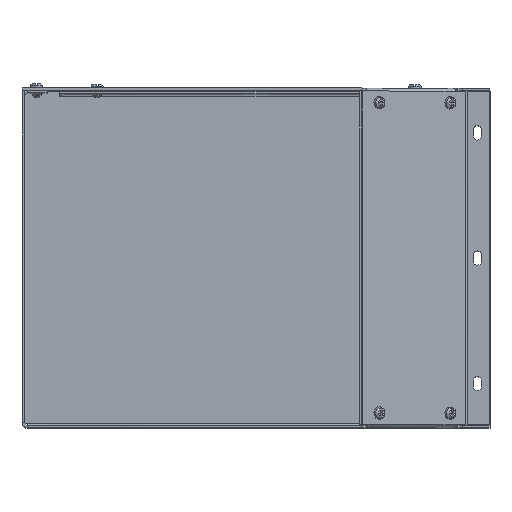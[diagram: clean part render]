
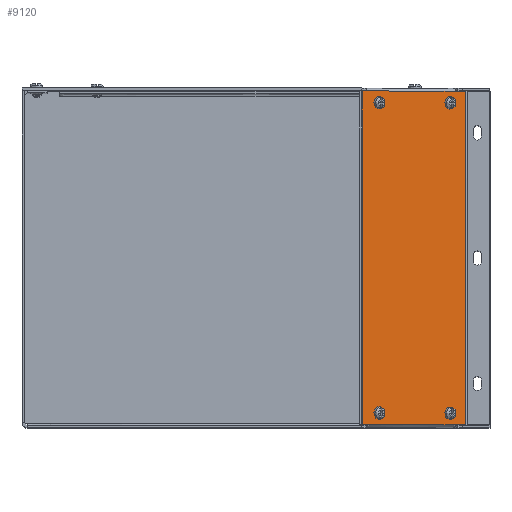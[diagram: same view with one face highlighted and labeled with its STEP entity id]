
A CAD part, top view. The second image highlights one B-rep face of the part: STEP entity #9120.
In plain terms, the highlighted free-form (B-spline) face has degree [1, 1] with [2, 2] control points.
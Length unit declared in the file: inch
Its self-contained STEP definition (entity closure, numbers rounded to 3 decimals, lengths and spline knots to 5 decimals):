
#8033=CARTESIAN_POINT('V1',(2.78096,9.636,
   -3.42914));
#8034=VERTEX_POINT('V1',#8033);
#8035=CARTESIAN_POINT('E1',(2.78096,9.636,
   -3.42914));
#8036=CARTESIAN_POINT('E1',(2.78096,9.85251,
   -3.42914));
#8037=CARTESIAN_POINT('E1',(2.64838,9.74425,
   -3.29655));
#8038=CARTESIAN_POINT('E1',(2.5158,9.636,
   -3.16397));
#8039=CARTESIAN_POINT('E1',(2.64838,9.52775,
   -3.29655));
#8040=CARTESIAN_POINT('E1',(2.78096,9.41949,
   -3.42914));
#8041=CARTESIAN_POINT('E1',(2.78096,9.636,
   -3.42914));
#8049=(BOUNDED_CURVE()B_SPLINE_CURVE(2,(#8035,#8036,#8037,#8038,
   #8039,#8040,#8041),.CIRCULAR_ARC.,.T.,.U.)
   B_SPLINE_CURVE_WITH_KNOTS((3,2,2,3),(0.0,0.33333,
   0.66667,1.0),.UNSPECIFIED.)CURVE()
   GEOMETRIC_REPRESENTATION_ITEM()RATIONAL_B_SPLINE_CURVE((1.0,
   0.5,1.0,0.5,1.0,0.5,1.0)
   )REPRESENTATION_ITEM('E1'));
#8050=EDGE_CURVE('E1',#8034,#8034,#8049,.T.);
#8102=CARTESIAN_POINT('V2',(2.78096,0.35,
   -3.42914));
#8103=VERTEX_POINT('V2',#8102);
#8104=CARTESIAN_POINT('E2',(2.78096,0.35,
   -3.42914));
#8105=CARTESIAN_POINT('E2',(2.78096,0.56651,
   -3.42914));
#8106=CARTESIAN_POINT('E2',(2.64838,0.45825,
   -3.29655));
#8107=CARTESIAN_POINT('E2',(2.5158,0.35,
   -3.16397));
#8108=CARTESIAN_POINT('E2',(2.64838,0.24175,
   -3.29655));
#8109=CARTESIAN_POINT('E2',(2.78096,0.13349,
   -3.42914));
#8110=CARTESIAN_POINT('E2',(2.78096,0.35,
   -3.42914));
#8118=(BOUNDED_CURVE()B_SPLINE_CURVE(2,(#8104,#8105,#8106,#8107,
   #8108,#8109,#8110),.CIRCULAR_ARC.,.T.,.U.)
   B_SPLINE_CURVE_WITH_KNOTS((3,2,2,3),(0.0,0.33333,
   0.66667,1.0),.UNSPECIFIED.)CURVE()
   GEOMETRIC_REPRESENTATION_ITEM()RATIONAL_B_SPLINE_CURVE((1.0,
   0.5,1.0,0.5,1.0,0.5,1.0)
   )REPRESENTATION_ITEM('E2'));
#8119=EDGE_CURVE('E2',#8103,#8103,#8118,.T.);
#8171=CARTESIAN_POINT('V3',(0.65964,0.35,
   -1.30782));
#8172=VERTEX_POINT('V3',#8171);
#8173=CARTESIAN_POINT('E3',(0.65964,0.35,
   -1.30782));
#8174=CARTESIAN_POINT('E3',(0.65964,0.56651,
   -1.30782));
#8175=CARTESIAN_POINT('E3',(0.52706,0.45825,
   -1.17523));
#8176=CARTESIAN_POINT('E3',(0.39447,0.35,
   -1.04265));
#8177=CARTESIAN_POINT('E3',(0.52706,0.24175,
   -1.17523));
#8178=CARTESIAN_POINT('E3',(0.65964,0.13349,
   -1.30782));
#8179=CARTESIAN_POINT('E3',(0.65964,0.35,
   -1.30782));
#8187=(BOUNDED_CURVE()B_SPLINE_CURVE(2,(#8173,#8174,#8175,#8176,
   #8177,#8178,#8179),.CIRCULAR_ARC.,.T.,.U.)
   B_SPLINE_CURVE_WITH_KNOTS((3,2,2,3),(0.0,0.33333,
   0.66667,1.0),.UNSPECIFIED.)CURVE()
   GEOMETRIC_REPRESENTATION_ITEM()RATIONAL_B_SPLINE_CURVE((1.0,
   0.5,1.0,0.5,1.0,0.5,1.0)
   )REPRESENTATION_ITEM('E3'));
#8188=EDGE_CURVE('E3',#8172,#8172,#8187,.T.);
#8240=CARTESIAN_POINT('V4',(0.65964,9.636,
   -1.30782));
#8241=VERTEX_POINT('V4',#8240);
#8242=CARTESIAN_POINT('E4',(0.65964,9.636,
   -1.30782));
#8243=CARTESIAN_POINT('E4',(0.65964,9.85251,
   -1.30782));
#8244=CARTESIAN_POINT('E4',(0.52706,9.74425,
   -1.17523));
#8245=CARTESIAN_POINT('E4',(0.39447,9.636,
   -1.04265));
#8246=CARTESIAN_POINT('E4',(0.52706,9.52775,
   -1.17523));
#8247=CARTESIAN_POINT('E4',(0.65964,9.41949,
   -1.30782));
#8248=CARTESIAN_POINT('E4',(0.65964,9.636,
   -1.30782));
#8256=(BOUNDED_CURVE()B_SPLINE_CURVE(2,(#8242,#8243,#8244,#8245,
   #8246,#8247,#8248),.CIRCULAR_ARC.,.T.,.U.)
   B_SPLINE_CURVE_WITH_KNOTS((3,2,2,3),(0.0,0.33333,
   0.66667,1.0),.UNSPECIFIED.)CURVE()
   GEOMETRIC_REPRESENTATION_ITEM()RATIONAL_B_SPLINE_CURVE((1.0,
   0.5,1.0,0.5,1.0,0.5,1.0)
   )REPRESENTATION_ITEM('E4'));
#8257=EDGE_CURVE('E4',#8241,#8241,#8256,.T.);
#8986=CARTESIAN_POINT('V8',(0.09543,9.986,
   -0.74361));
#8987=VERTEX_POINT('V8',#8986);
#9030=CARTESIAN_POINT('V7',(3.16839,9.986,
   -3.81657));
#9031=VERTEX_POINT('V7',#9030);
#9032=CARTESIAN_POINT('E7',(0.09543,9.986,
   -0.74361));
#9033=CARTESIAN_POINT('E7',(3.16839,9.986,
   -3.81657));
#9034=QUASI_UNIFORM_CURVE('E7',1,(#9032,#9033),.POLYLINE_FORM.,.F.,
   .U.);
#9035=EDGE_CURVE('E7',#8987,#9031,#9034,.T.);
#9058=CARTESIAN_POINT('V6',(3.16839,0.0,-3.81657)
   );
#9059=VERTEX_POINT('V6',#9058);
#9060=CARTESIAN_POINT('V5',(0.09543,0.0,-0.74361)
   );
#9061=VERTEX_POINT('V5',#9060);
#9062=CARTESIAN_POINT('E5',(3.16839,0.0,-3.81657)
   );
#9063=CARTESIAN_POINT('E5',(0.09543,0.0,-0.74361)
   );
#9064=QUASI_UNIFORM_CURVE('E5',1,(#9062,#9063),.POLYLINE_FORM.,.F.,
   .U.);
#9065=EDGE_CURVE('E5',#9059,#9061,#9064,.T.);
#9089=CARTESIAN_POINT('F2',(0.0946,9.98718,
   -0.74277));
#9090=CARTESIAN_POINT('F2',(3.16923,9.98718,
   -3.8174));
#9091=CARTESIAN_POINT('F2',(0.0946,-0.00118,
   -0.74277));
#9092=CARTESIAN_POINT('F2',(3.16923,-0.00118,
   -3.8174));
#9093=B_SPLINE_SURFACE_WITH_KNOTS('F2',1,1,((#9089,#9091),(#9090,
   #9092)),.PLANE_SURF.,.F.,.F.,.U.,(2,2),(2,2),(0.0,1.0),(0.0,
   2.29713),.UNSPECIFIED.);
#9094=CARTESIAN_POINT('E6',(3.16839,9.986,
   -3.81657));
#9095=CARTESIAN_POINT('E6',(3.16839,0.0,-3.81657)
   );
#9096=QUASI_UNIFORM_CURVE('E6',1,(#9094,#9095),.POLYLINE_FORM.,.F.,
   .U.);
#9097=EDGE_CURVE('E6',#9031,#9059,#9096,.T.);
#9098=ORIENTED_EDGE('E6',*,*,#9097,.F.);
#9099=ORIENTED_EDGE('E7',*,*,#9035,.F.);
#9100=CARTESIAN_POINT('E8',(0.09543,0.0,-0.74361)
   );
#9101=CARTESIAN_POINT('E8',(0.09543,9.986,
   -0.74361));
#9102=QUASI_UNIFORM_CURVE('E8',1,(#9100,#9101),.POLYLINE_FORM.,.F.,
   .U.);
#9103=EDGE_CURVE('E8',#9061,#8987,#9102,.T.);
#9104=ORIENTED_EDGE('E8',*,*,#9103,.F.);
#9105=ORIENTED_EDGE('E5',*,*,#9065,.F.);
#9106=EDGE_LOOP('F2',(#9098,#9099,#9104,#9105));
#9107=FACE_OUTER_BOUND('F2',#9106,.T.);
#9108=ORIENTED_EDGE('E4',*,*,#8257,.F.);
#9109=EDGE_LOOP('F2',(#9108));
#9110=FACE_BOUND('F2',#9109,.T.);
#9111=ORIENTED_EDGE('E3',*,*,#8188,.F.);
#9112=EDGE_LOOP('F2',(#9111));
#9113=FACE_BOUND('F2',#9112,.T.);
#9114=ORIENTED_EDGE('E2',*,*,#8119,.F.);
#9115=EDGE_LOOP('F2',(#9114));
#9116=FACE_BOUND('F2',#9115,.T.);
#9117=ORIENTED_EDGE('E1',*,*,#8050,.F.);
#9118=EDGE_LOOP('F2',(#9117));
#9119=FACE_BOUND('F2',#9118,.T.);
#9120=ADVANCED_FACE('F2',(#9107,#9110,#9113,#9116,#9119),#9093,.F.
   );
